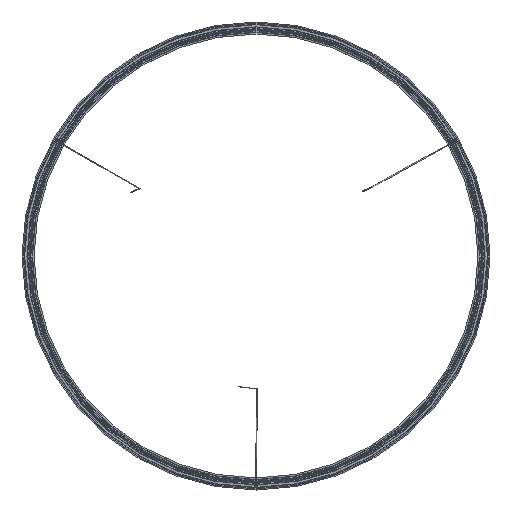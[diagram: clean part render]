
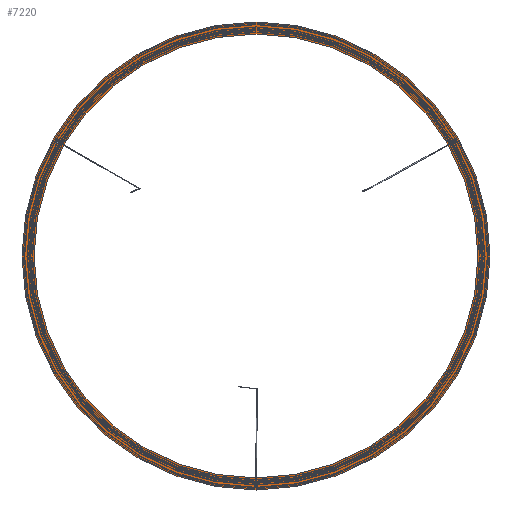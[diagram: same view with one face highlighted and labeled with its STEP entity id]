
A CAD part, top view. The second image highlights one B-rep face of the part: STEP entity #7220.
In plain terms, the highlighted planar face has unit normal (0, 0, 1).
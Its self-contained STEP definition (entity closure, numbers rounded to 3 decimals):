
#269=CIRCLE('',#7589,5.7);
#288=CIRCLE('',#7625,5.7);
#307=CIRCLE('',#7661,5.7);
#320=CIRCLE('',#7682,699.5);
#321=CIRCLE('',#7684,737.5);
#1621=ORIENTED_EDGE('',*,*,#2295,.T.);
#1622=ORIENTED_EDGE('',*,*,#2332,.T.);
#1623=ORIENTED_EDGE('',*,*,#2369,.T.);
#1624=ORIENTED_EDGE('',*,*,#2383,.F.);
#1625=ORIENTED_EDGE('',*,*,#2382,.T.);
#2295=EDGE_CURVE('',#2786,#2786,#269,.T.);
#2332=EDGE_CURVE('',#2818,#2818,#288,.T.);
#2369=EDGE_CURVE('',#2850,#2850,#307,.T.);
#2382=EDGE_CURVE('',#2853,#2853,#320,.T.);
#2383=EDGE_CURVE('',#2854,#2854,#321,.T.);
#2786=VERTEX_POINT('',#11219);
#2818=VERTEX_POINT('',#11371);
#2850=VERTEX_POINT('',#11523);
#2853=VERTEX_POINT('',#11547);
#2854=VERTEX_POINT('',#11550);
#3559=EDGE_LOOP('',(#1621));
#3560=EDGE_LOOP('',(#1622));
#3561=EDGE_LOOP('',(#1623));
#3562=EDGE_LOOP('',(#1624));
#3563=EDGE_LOOP('',(#1625));
#4088=FACE_BOUND('',#3559,.T.);
#4089=FACE_BOUND('',#3560,.T.);
#4090=FACE_BOUND('',#3561,.T.);
#4091=FACE_BOUND('',#3562,.T.);
#4092=FACE_BOUND('',#3563,.T.);
#4444=PLANE('',#7683);
#7220=ADVANCED_FACE('',(#4088,#4089,#4090,#4091,#4092),#4444,.F.);
#7589=AXIS2_PLACEMENT_3D('',#11218,#8539,#8540);
#7625=AXIS2_PLACEMENT_3D('',#11370,#8615,#8616);
#7661=AXIS2_PLACEMENT_3D('',#11522,#8691,#8692);
#7682=AXIS2_PLACEMENT_3D('',#11546,#8733,#8734);
#7683=AXIS2_PLACEMENT_3D('',#11548,#8735,#8736);
#7684=AXIS2_PLACEMENT_3D('',#11549,#8737,#8738);
#8539=DIRECTION('',(0.,0.,-1.));
#8540=DIRECTION('',(-0.222,-0.975,0.));
#8615=DIRECTION('',(0.,0.,-1.));
#8616=DIRECTION('',(-0.399,-0.917,0.));
#8691=DIRECTION('',(0.,0.,-1.));
#8692=DIRECTION('',(-0.911,-0.412,0.));
#8733=DIRECTION('',(0.,0.,-1.));
#8734=DIRECTION('',(-0.866,0.5,0.));
#8735=DIRECTION('',(0.,0.,-1.));
#8736=DIRECTION('',(-0.866,0.5,0.));
#8737=DIRECTION('',(0.,0.,-1.));
#8738=DIRECTION('',(-0.866,0.5,0.));
#11218=CARTESIAN_POINT('',(-625.703,361.25,18.5));
#11219=CARTESIAN_POINT('',(-626.969,355.692,18.5));
#11370=CARTESIAN_POINT('',(625.703,361.25,18.5));
#11371=CARTESIAN_POINT('',(623.427,356.024,18.5));
#11522=CARTESIAN_POINT('',(0.,-722.5,18.5));
#11523=CARTESIAN_POINT('',(-5.194,-724.847,18.5));
#11546=CARTESIAN_POINT('',(0.,0.,18.5));
#11547=CARTESIAN_POINT('',(-605.785,349.75,18.5));
#11548=CARTESIAN_POINT('',(-605.785,349.75,18.5));
#11549=CARTESIAN_POINT('',(0.,0.,18.5));
#11550=CARTESIAN_POINT('',(-638.694,368.75,18.5));
